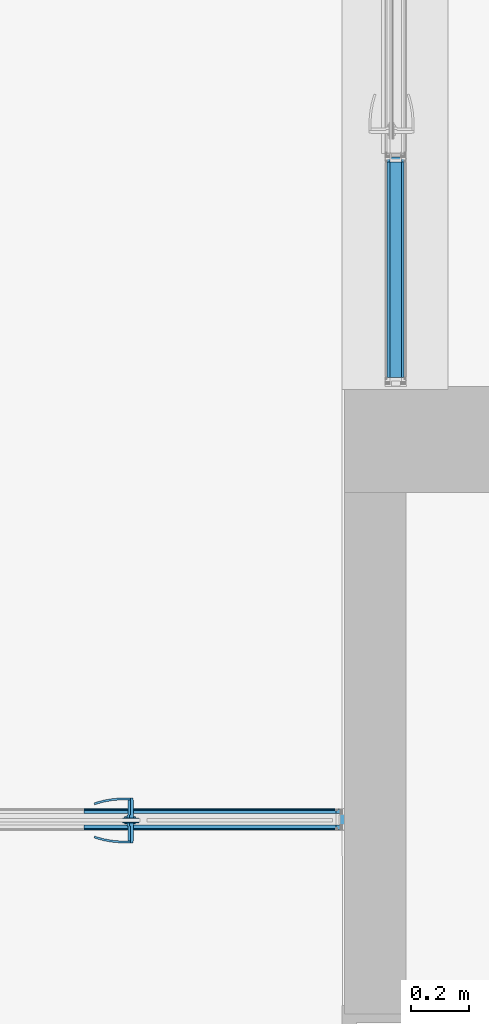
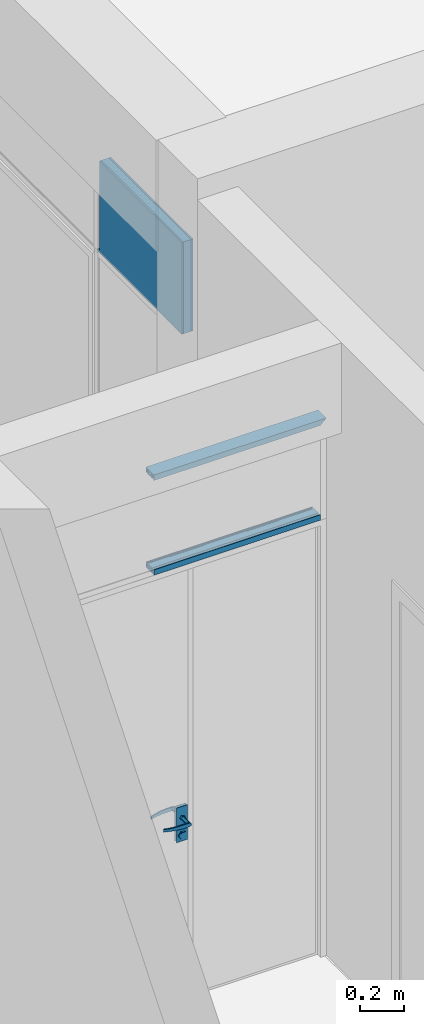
# One storey, part 70 of 89: 7 building element parts, 6 elements without a shape of their own.
"""IFC2X3 building model written with IfcOpenShell, lengths in millimetres."""

from ifc_helpers import new_model, entity, si_unit, converted_unit, derived_unit, money_unit, direction, frame, origin_with_axes, place, context, subcontext, project, spatial, open_shell, faceted_brep, surface_model, material, type_object, element, aggregate, save


model = new_model("IFC2X3")

# Units and contexts
model_context = context("Model", 3, precision=0.01, world=origin_with_axes(), true_north=direction((0.0, 1.0)))
body_context = subcontext(model_context, "Body", "Model", "MODEL_VIEW")
ifc_project = project(units=[si_unit("LENGTHUNIT", "METRE", prefix="MILLI"), si_unit("AREAUNIT", "SQUARE_METRE"), si_unit("VOLUMEUNIT", "CUBIC_METRE"), converted_unit("PLANEANGLEUNIT", "DEGREE", entity("IfcPlaneAngleMeasure", 0.0174532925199), si_unit("PLANEANGLEUNIT", "RADIAN"), dimensions=[0, 0, 0, 0, 0, 0, 0]), si_unit("SOLIDANGLEUNIT", "STERADIAN"), money_unit("EUR"), converted_unit("TIMEUNIT", "Year", entity("IfcTimeMeasure", 31556926.0), si_unit("TIMEUNIT", "SECOND"), dimensions=[0, 0, 1, 0, 0, 0, 0]), si_unit("MASSUNIT", "GRAM", prefix="KILO"), si_unit("THERMODYNAMICTEMPERATUREUNIT", "DEGREE_CELSIUS"), si_unit("LUMINOUSINTENSITYUNIT", "LUMEN"), si_unit("ENERGYUNIT", "JOULE", prefix="MEGA"), derived_unit("THERMALCONDUCTANCEUNIT", [(si_unit("POWERUNIT", "WATT"), 1), (si_unit("LENGTHUNIT", "METRE"), -1), (si_unit("THERMODYNAMICTEMPERATUREUNIT", "KELVIN"), -1)]), derived_unit("SPECIFICHEATCAPACITYUNIT", [(si_unit("ENERGYUNIT", "JOULE"), 1), (si_unit("MASSUNIT", "GRAM", prefix="KILO"), -1), (si_unit("THERMODYNAMICTEMPERATUREUNIT", "KELVIN"), -1)]), derived_unit("MASSDENSITYUNIT", [(si_unit("MASSUNIT", "GRAM", prefix="KILO"), 1), (si_unit("VOLUMEUNIT", "CUBIC_METRE"), -1)])], contexts=[model_context])

# Site, building, storey
site_placement = place(None, origin_with_axes())
site = spatial("IfcSite", under=ifc_project, at=site_placement, Name="Puškini 31, Narva", CompositionType="ELEMENT")
building_placement = place(site_placement, origin_with_axes())
building = spatial("IfcBuilding", under=site, at=building_placement, Name="Narva Riigigümnaasium", CompositionType="ELEMENT")
storey_placement = place(building_placement, frame((0.0, 0.0, -3300.0), z_axis=(0.0, 0.0, 1.0), x_axis=(1.0, 0.0, 0.0)))
storey = spatial("IfcBuildingStorey", under=building, at=storey_placement, Name="1.korrus -3.3", CompositionType="ELEMENT", Elevation=-3300.0)

# Curtain wall, plate, building element parts
curtain_wall_type = type_object("IfcCurtainWallType", Name="Curtain Wall Type", PredefinedType="NOTDEFINED")
curtain_wall_1_placement = place(storey_placement, frame((47675.0000001, 242632.20006, -3.78005973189e-05), z_axis=(0.0, 0.0, 1.0), x_axis=(1.0, 0.0, 0.0)))
curtain_wall_1 = element("IfcCurtainWall", 1, at=curtain_wall_1_placement, inside=storey, type_object=curtain_wall_type, Name="G-SKLF-10")
plate_type = type_object("IfcPlateType", Name="755 x 505 x 20", PredefinedType="CURTAIN_PANEL")
plate_placement = place(curtain_wall_1_placement, frame((0.0, 0.0, 2632.00002397), z_axis=(0.0, 0.0, 1.0), x_axis=(0.0, 1.0, 0.0)))
plate = element("IfcPlate", 2, at=plate_placement, type_object=plate_type, Name="G-SKLF-10-klaas", ObjectType="CURTAIN_PANEL")
aggregate(curtain_wall_1, [plate])
ifc_material_1 = material(Name="VKR-05_Klaas")
building_element_part_1_placement = place(plate_placement, origin_with_axes())
building_element_part_1 = element("IfcBuildingElementPart", 3, at=building_element_part_1_placement, material=ifc_material_1, Name="VKR-05_Klaas", context=body_context, shape_type="Brep", body=[
    faceted_brep([(-442.199978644, -29.0, 287.999945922), (297.799981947, -29.0, 287.999945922), (297.799981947, -20.0, 287.999945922), (-442.199978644, -20.0, 287.999945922), (-442.199978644, -29.0, -216.999991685), (314.800002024, -29.0, -216.999991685), (314.800002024, -29.0, -201.999956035), (297.799981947, -29.0, -201.999956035), (297.799981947, -20.0, -201.999956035), (314.800002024, -20.0, -201.999956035), (314.800002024, -20.0, -216.999991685), (-442.199978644, -20.0, -216.999991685)], [[[0, 1, 2, 3]], [[0, 4, 5, 6, 7, 1]], [[1, 7, 8, 2]], [[3, 2, 8, 9, 10, 11]], [[4, 0, 3, 11]], [[5, 4, 11, 10]], [[6, 5, 10, 9]], [[7, 6, 9, 8]]]),
    faceted_brep([(-442.199978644, 20.0, 287.999945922), (297.799981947, 20.0, 287.999945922), (297.799981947, 29.0, 287.999945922), (-442.199978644, 29.0, 287.999945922), (-442.199978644, 20.0, -216.999991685), (314.800002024, 20.0, -216.999991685), (314.800002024, 20.0, -201.999956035), (297.799981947, 20.0, -201.999956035), (297.799981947, 29.0, -201.999956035), (314.800002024, 29.0, -201.999956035), (314.800002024, 29.0, -216.999991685), (-442.199978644, 29.0, -216.999991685)], [[[0, 1, 2, 3]], [[0, 4, 5, 6, 7, 1]], [[1, 7, 8, 2]], [[3, 2, 8, 9, 10, 11]], [[4, 0, 3, 11]], [[5, 4, 11, 10]], [[6, 5, 10, 9]], [[7, 6, 9, 8]]]),
])
ifc_material_2 = material(Name="VKR-06_Õhkvahe")
building_element_part_2_placement = place(plate_placement, origin_with_axes())
building_element_part_2 = element("IfcBuildingElementPart", 4, at=building_element_part_2_placement, material=ifc_material_2, Name="VKR-06_Õhkvahe", context=body_context, shape_type="Brep", body=[
    faceted_brep([(-442.199978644, -20.0, 287.999945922), (297.799981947, -20.0, 287.999945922), (297.799981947, 20.0, 287.999945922), (-442.199978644, 20.0, 287.999945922), (-442.199978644, -20.0, -216.999991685), (314.800002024, -20.0, -216.999991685), (314.800002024, -20.0, -201.999956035), (297.799981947, -20.0, -201.999956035), (297.799981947, 20.0, -201.999956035), (314.800002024, 20.0, -201.999956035), (314.800002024, 20.0, -216.999991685), (-442.199978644, 20.0, -216.999991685)], [[[0, 1, 2, 3]], [[0, 4, 5, 6, 7, 1]], [[1, 7, 8, 2]], [[3, 2, 8, 9, 10, 11]], [[4, 0, 3, 11]], [[5, 4, 11, 10]], [[6, 5, 10, 9]], [[7, 6, 9, 8]]]),
])
aggregate(plate, [building_element_part_1, building_element_part_2])

# Curtain wall, door, building element parts, members
curtain_wall_2_placement = place(storey_placement, frame((46605.0000001, 240678.000001, 0.0), z_axis=(0.0, 0.0, 1.0), x_axis=(1.0, 0.0, 0.0)))
curtain_wall_2 = element("IfcCurtainWall", 5, at=curtain_wall_2_placement, inside=storey, type_object=curtain_wall_type, Name="G-SKLF-57")
door_style = type_object("IfcDoorStyle", Name="895 x 2385 x -5", ConstructionType="NOTDEFINED", OperationType="NOTDEFINED", ParameterTakesPrecedence=False, Sizeable=False)
door_placement = place(curtain_wall_2_placement, frame((0.0, 0.0, 1200.0), z_axis=(0.0, 0.0, 1.0), x_axis=(1.0, 0.0, 0.0)))
door = element("IfcDoor", 6, at=door_placement, type_object=door_style, Name="G-SKLF-58-U1", ObjectType="DOOR")
ifc_material_3 = material(Name="ET-07_Teras - Roostevaba")
building_element_part_3_placement = place(door_placement, origin_with_axes())
building_element_part_3 = element("IfcBuildingElementPart", 7, at=building_element_part_3_placement, material=ifc_material_3, Name="ET-07_Teras - Roostevaba", context=body_context, shape_type="SurfaceModel", body=[
    faceted_brep([(188.5, -14.5, -140.0), (131.5, -14.5, -140.0), (131.5, -17.5, -140.0), (188.5, -17.5, -140.0), (188.5, -14.5, -330.0), (131.5, -14.5, -330.0), (131.5, -17.5, -330.0), (188.5, -17.5, -330.0)], [[[0, 1, 2, 3]], [[0, 4, 5, 1]], [[1, 5, 6, 2]], [[3, 2, 6, 7]], [[4, 0, 3, 7]], [[5, 4, 7, 6]]]),
    surface_model("IfcShellBasedSurfaceModel", [(160.0, -78.5, -210.0), (168.660254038, -78.5, -205.0), (168.660254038, -85.5, -205.0), (160.0, -85.5, -210.0), (135.0, -78.5, -210.0), (135.0, -78.5, -190.0), (160.0, -78.5, -190.0), (168.660254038, -78.5, -195.0), (168.660254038, -85.5, -195.0), (160.0, -85.5, -190.0), (135.0, -85.5, -190.0), (135.0, -85.5, -210.0)], [open_shell([[[0, 1, 2, 3]], [[0, 4, 5, 6, 7, 1]], [[1, 7, 8, 2]], [[3, 2, 8, 9, 10, 11]], [[4, 0, 3, 11]], [[6, 5, 10, 9]], [[7, 6, 9, 8]]])]),
    surface_model("IfcShellBasedSurfaceModel", [(135.0, -78.5, -190.0), (121.901717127, -78.5, -190.392699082), (121.596090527, -85.5, -190.392699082), (135.0, -78.5, -210.0), (121.901717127, -78.5, -209.607300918), (94.8902834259, -83.1635446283, -191.178097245), (135.0, -85.5, -190.0), (135.0, -85.5, -210.0), (95.804837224, -76.216818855, -208.821902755), (95.804837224, -76.216818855, -191.178097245), (94.8902834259, -83.1635446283, -208.821902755), (121.596090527, -85.5, -209.607300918), (70.0062561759, -71.6678329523, -208.036504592), (70.0062561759, -71.6678329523, -191.963495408), (68.4897354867, -78.5084157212, -191.963495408), (68.4897354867, -78.5084157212, -208.036504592), (44.7023167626, -64.8876628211, -207.251106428), (44.7023167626, -64.8876628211, -192.748893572), (42.5953708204, -71.5700416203, -192.748893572), (42.5953708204, -71.5700416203, -207.251106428), (36.8294420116, -62.0221707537, -207.0), (36.8294420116, -62.0221707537, -193.0), (34.5387956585, -68.6376880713, -193.0), (34.5387956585, -68.6376880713, -207.0)], [open_shell([[[0, 1, 2]], [[0, 3, 4, 1]], [[1, 5, 2]], [[0, 2, 6]], [[4, 3, 7]], [[1, 4, 8, 9]], [[1, 9, 5]], [[2, 5, 10, 11]], [[6, 2, 11, 7]], [[4, 7, 11]], [[8, 4, 11]], [[9, 8, 12, 13]], [[9, 14, 5]], [[5, 14, 15, 10]], [[8, 11, 10]], [[12, 8, 10]], [[13, 12, 16, 17]], [[9, 13, 14]], [[14, 18, 19, 15]], [[12, 10, 15]], [[16, 12, 15]], [[17, 16, 20, 21]], [[13, 17, 18]], [[13, 18, 14]], [[18, 22, 23, 19]], [[16, 15, 19]], [[20, 16, 19]], [[21, 20, 23, 22]], [[17, 21, 22]], [[17, 22, 18]], [[20, 19, 23]]])]),
    faceted_brep([(156.291796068, -27.5, -211.412678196), (148.0, -27.5, -200.0), (147.0, -17.5, -200.0), (155.982779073, -17.5, -212.363734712), (169.708203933, -27.5, -207.053423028), (169.708203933, -27.5, -192.946576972), (156.291796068, -27.5, -188.587321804), (155.982779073, -17.5, -187.636265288), (170.517220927, -17.5, -192.35879172), (170.517220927, -17.5, -207.64120828)], [[[0, 1, 2, 3]], [[1, 0, 4, 5, 6]], [[1, 6, 7, 2]], [[2, 7, 8, 9, 3]], [[4, 0, 3, 9]], [[5, 4, 9, 8]], [[6, 5, 8, 7]]]),
    faceted_brep([(153.819660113, -21.5, -314.021130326), (140.0, -21.5, -295.0), (138.0, -17.5, -295.0), (153.201626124, -17.5, -315.923243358), (176.180339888, -21.5, -306.755705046), (176.180339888, -21.5, -283.244294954), (153.819660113, -21.5, -275.978869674), (153.201626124, -17.5, -274.076756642), (177.798373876, -17.5, -282.06872445), (177.798373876, -17.5, -307.93127555)], [[[0, 1, 2, 3]], [[1, 0, 4, 5, 6]], [[1, 6, 7, 2]], [[2, 7, 8, 9, 3]], [[4, 0, 3, 9]], [[5, 4, 9, 8]], [[6, 5, 8, 7]]]),
    faceted_brep([(157.836881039, -23.5, -292.657395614), (153.0, -23.5, -286.0), (152.0, -21.5, -286.0), (157.527864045, -21.5, -293.60845213), (165.663118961, -23.5, -290.114496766), (165.663118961, -23.5, -281.885503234), (157.836881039, -23.5, -279.342604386), (157.527864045, -21.5, -278.39154787), (166.472135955, -21.5, -281.297717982), (166.472135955, -21.5, -290.702282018)], [[[0, 1, 2, 3]], [[1, 0, 4, 5, 6]], [[1, 6, 7, 2]], [[2, 7, 8, 9, 3]], [[4, 0, 3, 9]], [[5, 4, 9, 8]], [[6, 5, 8, 7]]]),
    faceted_brep([(160.0, -27.5, -190.0), (150.489434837, -27.5, -196.909830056), (150.489434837, -78.5, -196.909830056), (160.0, -78.5, -190.0), (169.510565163, -27.5, -196.909830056), (165.877852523, -27.5, -208.090169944), (154.122147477, -27.5, -208.090169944), (154.122147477, -78.5, -208.090169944), (165.877852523, -78.5, -208.090169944), (169.510565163, -78.5, -196.909830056)], [[[0, 1, 2, 3]], [[0, 4, 5, 6, 1]], [[1, 6, 7, 2]], [[3, 2, 7, 8, 9]], [[4, 0, 3, 9]], [[5, 4, 9, 8]], [[6, 5, 8, 7]]]),
    faceted_brep([(188.5, -2.5, -140.0), (188.5, 0.499999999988, -140.0), (131.5, 0.499999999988, -140.0), (131.5, -2.5, -140.0), (188.5, -2.5, -330.0), (188.5, 0.499999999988, -330.0), (131.5, 0.499999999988, -330.0), (131.5, -2.5, -330.0)], [[[0, 1, 2, 3]], [[4, 5, 1, 0]], [[1, 5, 6, 2]], [[3, 2, 6, 7]], [[0, 3, 7, 4]], [[7, 6, 5, 4]]]),
    surface_model("IfcShellBasedSurfaceModel", [(160.0, 61.5, -210.0), (160.0, 68.5, -210.0), (168.660254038, 68.5, -205.0), (168.660254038, 61.5, -205.0), (135.0, 61.5, -210.0), (135.0, 68.5, -210.0), (135.0, 68.5, -190.0), (160.0, 68.5, -190.0), (168.660254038, 68.5, -195.0), (168.660254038, 61.5, -195.0), (160.0, 61.5, -190.0), (135.0, 61.5, -190.0)], [open_shell([[[0, 1, 2, 3]], [[4, 5, 1, 0]], [[1, 5, 6, 7, 8, 2]], [[3, 2, 8, 9]], [[0, 3, 9, 10, 11, 4]], [[10, 7, 6, 11]], [[9, 8, 7, 10]]])]),
    surface_model("IfcShellBasedSurfaceModel", [(135.0, 61.5, -190.0), (121.596090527, 68.5, -190.392699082), (121.901717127, 61.5, -190.392699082), (135.0, 68.5, -190.0), (94.8902834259, 66.1635446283, -191.178097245), (121.901717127, 61.5, -209.607300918), (135.0, 61.5, -210.0), (135.0, 68.5, -210.0), (121.596090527, 68.5, -209.607300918), (94.8902834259, 66.1635446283, -208.821902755), (95.804837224, 59.216818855, -191.178097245), (95.804837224, 59.216818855, -208.821902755), (68.4897354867, 61.5084157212, -208.036504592), (68.4897354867, 61.5084157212, -191.963495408), (70.0062561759, 54.6678329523, -191.963495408), (70.0062561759, 54.6678329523, -208.036504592), (42.5953708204, 54.5700416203, -207.251106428), (42.5953708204, 54.5700416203, -192.748893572), (44.7023167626, 47.8876628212, -192.748893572), (44.7023167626, 47.8876628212, -207.251106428), (34.5387956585, 51.6376880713, -207.0), (34.5387956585, 51.6376880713, -193.0), (36.8294420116, 45.0221707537, -193.0), (36.8294420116, 45.0221707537, -207.0)], [open_shell([[[0, 1, 2]], [[0, 3, 1]], [[2, 1, 4]], [[0, 2, 5, 6]], [[3, 7, 8, 1]], [[1, 8, 9, 4]], [[2, 4, 10]], [[2, 10, 11, 5]], [[5, 7, 6]], [[5, 8, 7]], [[11, 9, 8]], [[4, 9, 12, 13]], [[10, 4, 13]], [[10, 14, 15, 11]], [[11, 8, 5]], [[15, 9, 11]], [[15, 12, 9]], [[13, 12, 16, 17]], [[10, 13, 14]], [[14, 18, 19, 15]], [[19, 12, 15]], [[19, 16, 12]], [[17, 16, 20, 21]], [[14, 13, 17]], [[14, 17, 18]], [[18, 22, 23, 19]], [[23, 16, 19]], [[23, 20, 16]], [[22, 21, 20, 23]], [[18, 17, 21]], [[18, 21, 22]]])]),
    faceted_brep([(156.291796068, 10.5, -211.412678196), (155.982779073, 0.499999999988, -212.363734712), (147.0, 0.499999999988, -200.0), (148.0, 10.5, -200.0), (169.708203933, 10.5, -207.053423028), (170.517220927, 0.499999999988, -207.64120828), (170.517220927, 0.499999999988, -192.35879172), (155.982779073, 0.499999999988, -187.636265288), (156.291796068, 10.5, -188.587321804), (169.708203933, 10.5, -192.946576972)], [[[0, 1, 2, 3]], [[4, 5, 1, 0]], [[2, 1, 5, 6, 7]], [[3, 2, 7, 8]], [[3, 8, 9, 4, 0]], [[9, 6, 5, 4]], [[8, 7, 6, 9]]]),
    faceted_brep([(153.819660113, 4.50000000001, -314.021130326), (153.201626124, 0.499999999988, -315.923243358), (138.0, 0.499999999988, -295.0), (140.0, 4.50000000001, -295.0), (176.180339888, 4.50000000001, -306.755705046), (177.798373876, 0.499999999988, -307.93127555), (177.798373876, 0.499999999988, -282.06872445), (153.201626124, 0.499999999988, -274.076756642), (153.819660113, 4.50000000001, -275.978869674), (176.180339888, 4.50000000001, -283.244294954)], [[[0, 1, 2, 3]], [[4, 5, 1, 0]], [[2, 1, 5, 6, 7]], [[3, 2, 7, 8]], [[3, 8, 9, 4, 0]], [[9, 6, 5, 4]], [[8, 7, 6, 9]]]),
    faceted_brep([(157.836881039, 6.49999999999, -292.657395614), (157.527864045, 4.50000000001, -293.60845213), (152.0, 4.50000000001, -286.0), (153.0, 6.49999999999, -286.0), (165.663118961, 6.49999999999, -290.114496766), (166.472135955, 4.50000000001, -290.702282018), (166.472135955, 4.50000000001, -281.297717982), (157.527864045, 4.50000000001, -278.39154787), (157.836881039, 6.49999999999, -279.342604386), (165.663118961, 6.49999999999, -281.885503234)], [[[0, 1, 2, 3]], [[4, 5, 1, 0]], [[2, 1, 5, 6, 7]], [[3, 2, 7, 8]], [[3, 8, 9, 4, 0]], [[9, 6, 5, 4]], [[8, 7, 6, 9]]]),
    faceted_brep([(160.0, 10.5, -190.0), (160.0, 61.5, -190.0), (150.489434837, 61.5, -196.909830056), (150.489434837, 10.5, -196.909830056), (169.510565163, 10.5, -196.909830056), (169.510565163, 61.5, -196.909830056), (165.877852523, 61.5, -208.090169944), (154.122147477, 61.5, -208.090169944), (154.122147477, 10.5, -208.090169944), (165.877852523, 10.5, -208.090169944)], [[[0, 1, 2, 3]], [[4, 5, 1, 0]], [[1, 5, 6, 7, 2]], [[3, 2, 7, 8]], [[0, 3, 8, 9, 4]], [[9, 6, 5, 4]], [[8, 7, 6, 9]]]),
])
aggregate(door, [building_element_part_3])
member_type_1 = type_object("IfcMemberType", Name="Siseklaasfassaad-Servaprofiil-Doubleline30 30 x 42", PredefinedType="MULLION")
member_1_placement = place(curtain_wall_2_placement, frame((895.0, 0.0, 2400.0), z_axis=(-1.0, 0.0, 0.0), x_axis=(0.0, 0.0, 1.0)))
member_1 = element("IfcMember", 8, at=member_1_placement, type_object=member_type_1, Name="Frame-Siseklaasf-125", ObjectType="MULLION")
ifc_material_4 = material(Name="Klaasvill")
building_element_part_4_placement = place(member_1_placement, origin_with_axes())
building_element_part_4 = element("IfcBuildingElementPart", 9, at=building_element_part_4_placement, material=ifc_material_4, Name="Klaasvill", context=body_context, shape_type="Brep", body=[
    faceted_brep([(13.8499999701, 15.000000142, 30.0000193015), (13.8499999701, 15.000000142, 895.0), (7.49999990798, 15.000000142, 895.0), (7.49999990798, 15.000000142, 30.0000193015), (13.8499999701, 29.0161444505, 30.0000193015), (13.8499999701, 29.0161444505, 895.0), (7.49999990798, 29.0161444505, 895.0), (7.49999990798, 29.0161444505, 30.0000193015)], [[[0, 1, 2, 3]], [[4, 5, 1, 0]], [[2, 1, 5, 6]], [[3, 2, 6, 7]], [[3, 7, 4, 0]], [[7, 6, 5, 4]]]),
    faceted_brep([(25.004489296, 27.0307503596, 30.0000193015), (25.004489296, 27.0307503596, 895.0), (24.987414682, 29.0161444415, 895.0), (24.987414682, 29.0161444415, 30.0000193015), (25.742237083, 26.2930025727, 30.0000193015), (25.742237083, 26.2930025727, 895.0), (26.7500193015, 26.0229681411, 895.0), (27.75780152, 26.2930025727, 895.0), (28.4955493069, 27.0307503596, 895.0), (28.7655837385, 28.0385325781, 895.0), (28.5126239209, 29.0161444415, 895.0), (28.5126239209, 29.0161444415, 30.0000193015), (28.7655837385, 28.0385325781, 30.0000193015), (28.4955493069, 27.0307503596, 30.0000193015), (27.75780152, 26.2930025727, 30.0000193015), (26.7500193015, 26.0229681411, 30.0000193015)], [[[0, 1, 2, 3]], [[4, 5, 1, 0]], [[2, 1, 5, 6, 7, 8, 9, 10]], [[3, 2, 10, 11]], [[3, 11, 12, 13, 14, 15, 4, 0]], [[15, 6, 5, 4]], [[14, 7, 6, 15]], [[13, 8, 7, 14]], [[12, 9, 8, 13]], [[11, 10, 9, 12]]]),
    faceted_brep([(7.49999990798, -39.0161445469, 30.0000193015), (7.49999990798, -39.0161445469, 895.0), (7.49999990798, -24.9999997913, 895.0), (7.49999990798, -24.9999997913, 30.0000193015), (13.8499999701, -39.0161445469, 30.0000193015), (13.8499999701, -39.0161445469, 895.0), (13.8499999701, -24.9999997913, 895.0), (13.8499999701, -24.9999997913, 30.0000193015)], [[[0, 1, 2, 3]], [[4, 5, 1, 0]], [[2, 1, 5, 6]], [[3, 2, 6, 7]], [[3, 7, 4, 0]], [[7, 6, 5, 4]]]),
    faceted_brep([(24.987414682, -39.0161444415, 30.0000193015), (24.987414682, -39.0161444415, 895.0), (25.004489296, -37.0307503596, 895.0), (25.004489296, -37.0307503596, 30.0000193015), (28.5126239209, -39.0161444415, 30.0000193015), (28.5126239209, -39.0161444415, 895.0), (28.7655837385, -38.0385325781, 895.0), (28.4955493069, -37.0307503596, 895.0), (27.75780152, -36.2930025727, 895.0), (26.7500193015, -36.0229681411, 895.0), (25.742237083, -36.2930025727, 895.0), (25.742237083, -36.2930025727, 30.0000193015), (26.7500193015, -36.0229681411, 30.0000193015), (27.75780152, -36.2930025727, 30.0000193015), (28.4955493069, -37.0307503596, 30.0000193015), (28.7655837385, -38.0385325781, 30.0000193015)], [[[0, 1, 2, 3]], [[4, 5, 1, 0]], [[2, 1, 5, 6, 7, 8, 9, 10]], [[3, 2, 10, 11]], [[3, 11, 12, 13, 14, 15, 4, 0]], [[15, 6, 5, 4]], [[14, 7, 6, 15]], [[13, 8, 7, 14]], [[12, 9, 8, 13]], [[11, 10, 9, 12]]]),
])
ifc_material_5 = material(Name="Teras RAL7012")
building_element_part_5_placement = place(member_1_placement, origin_with_axes())
building_element_part_5 = element("IfcBuildingElementPart", 10, at=building_element_part_5_placement, material=ifc_material_5, Name="Teras RAL7012", context=body_context, shape_type="Brep", body=[
    faceted_brep([(29.5999996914, -22.0000000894, 30.0000193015), (29.5999996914, -22.0000000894, 895.0), (0.0, -22.0000000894, 895.0), (0.0, -22.0000000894, 30.0000193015), (29.5999996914, 12.0000000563, 30.0000193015), (29.5999996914, 12.0000000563, 895.0), (0.0, 12.0000000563, 895.0), (1.9999999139, 10.0000001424, 895.0), (18.7999996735, 10.0000001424, 895.0), (18.7999996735, -20.0000001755, 895.0), (1.9999999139, -20.0000001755, 895.0), (0.0, 12.0000000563, 30.0000193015), (1.9999999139, 10.0000001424, 30.0000193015), (1.9999999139, -20.0000001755, 30.0000193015), (18.7999996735, -20.0000001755, 30.0000193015), (18.7999996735, 10.0000001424, 30.0000193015)], [[[0, 1, 2, 3]], [[4, 5, 1, 0]], [[2, 1, 5, 6], [7, 8, 9, 10]], [[3, 2, 6, 11]], [[3, 11, 4, 0], [12, 13, 14, 15]], [[11, 6, 5, 4]], [[15, 8, 7, 12]], [[14, 9, 8, 15]], [[13, 10, 9, 14]], [[12, 7, 10, 13]]]),
    faceted_brep([(29.5999996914, 12.0000000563, 30.0000193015), (29.5999996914, 12.0000000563, 895.0), (0.0, 12.0, 895.0), (0.0, 12.0, 30.0000193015), (30.0000193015, 12.0, 30.0000193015), (30.0000193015, 12.0, 895.0), (30.0000193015, 15.0, 895.0), (13.8499999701, 15.000000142, 895.0), (7.49999999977, 15.0, 895.0), (7.49999999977, 29.0161444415, 895.0), (13.8499999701, 29.0161444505, 895.0), (24.987414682, 29.0161444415, 895.0), (28.5126239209, 29.0161444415, 895.0), (30.0000193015, 29.0161444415, 895.0), (30.0000193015, 32.0, 895.0), (0.0, 32.0, 895.0), (0.0, 32.0, 30.0000193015), (30.0000193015, 32.0, 30.0000193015), (30.0000193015, 29.0161444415, 30.0000193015), (28.5126239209, 29.0161444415, 30.0000193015), (24.987414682, 29.0161444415, 30.0000193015), (13.8499999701, 29.0161444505, 30.0000193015), (7.49999999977, 29.0161444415, 30.0000193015), (7.49999999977, 15.0, 30.0000193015), (13.8499999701, 15.000000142, 30.0000193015), (30.0000193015, 15.0, 30.0000193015)], [[[0, 1, 2, 3]], [[4, 5, 1, 0]], [[2, 1, 5, 6, 7, 8, 9, 10, 11, 12, 13, 14, 15]], [[3, 2, 15, 16]], [[3, 16, 17, 18, 19, 20, 21, 22, 23, 24, 25, 4, 0]], [[25, 6, 5, 4]], [[24, 7, 6, 25]], [[23, 8, 7, 24]], [[22, 9, 8, 23]], [[21, 10, 9, 22]], [[20, 11, 10, 21]], [[19, 12, 11, 20]], [[18, 13, 12, 19]], [[17, 14, 13, 18]], [[16, 15, 14, 17]]]),
    faceted_brep([(0.0, -42.0, 30.0000193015), (0.0, -42.0, 895.0), (0.0, -22.0, 895.0), (0.0, -22.0, 30.0000193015), (30.0000193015, -42.0, 30.0000193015), (30.0000193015, -42.0, 895.0), (30.0000193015, -39.0161444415, 895.0), (28.5126239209, -39.0161444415, 895.0), (24.987414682, -39.0161444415, 895.0), (13.8499999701, -39.0161445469, 895.0), (7.49999999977, -39.0161444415, 895.0), (7.49999999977, -25.0, 895.0), (13.8499999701, -24.9999997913, 895.0), (30.0000193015, -25.0, 895.0), (30.0000193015, -22.0, 895.0), (29.5999996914, -22.0000000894, 895.0), (29.5999996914, -22.0000000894, 30.0000193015), (30.0000193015, -22.0, 30.0000193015), (30.0000193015, -25.0, 30.0000193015), (13.8499999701, -24.9999997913, 30.0000193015), (7.49999999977, -25.0, 30.0000193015), (7.49999999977, -39.0161444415, 30.0000193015), (13.8499999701, -39.0161445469, 30.0000193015), (24.987414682, -39.0161444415, 30.0000193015), (28.5126239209, -39.0161444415, 30.0000193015), (30.0000193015, -39.0161444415, 30.0000193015)], [[[0, 1, 2, 3]], [[4, 5, 1, 0]], [[2, 1, 5, 6, 7, 8, 9, 10, 11, 12, 13, 14, 15]], [[3, 2, 15, 16]], [[3, 16, 17, 18, 19, 20, 21, 22, 23, 24, 25, 4, 0]], [[25, 6, 5, 4]], [[24, 7, 6, 25]], [[23, 8, 7, 24]], [[22, 9, 8, 23]], [[21, 10, 9, 22]], [[20, 11, 10, 21]], [[19, 12, 11, 20]], [[18, 13, 12, 19]], [[17, 14, 13, 18]], [[16, 15, 14, 17]]]),
])
aggregate(member_1, [building_element_part_4, building_element_part_5])
member_type_2 = type_object("IfcMemberType", Name="Boundary Frame 30 x 42", PredefinedType="MULLION")
member_2_placement = place(curtain_wall_2_placement, frame((895.0, 0.0, 2950.0), z_axis=(-1.0, 0.0, 0.0), x_axis=(0.0, 0.0, 1.0)))
member_2 = element("IfcMember", 11, at=member_2_placement, type_object=member_type_2, Name="SKLF-88-raam", ObjectType="MULLION")
aggregate(curtain_wall_2, [door, member_1, member_2])
building_element_part_6_placement = place(member_2_placement, origin_with_axes())
building_element_part_6 = element("IfcBuildingElementPart", 12, at=building_element_part_6_placement, material=ifc_material_4, Name="Klaasvill", context=body_context, shape_type="Brep", body=[
    faceted_brep([(-13.8499999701, 15.000000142, 13.8499999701), (-7.49999990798, 15.000000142, 7.49999990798), (-7.49999990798, 15.000000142, 895.0), (-13.8499999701, 15.000000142, 895.0), (-13.8499999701, 29.0161444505, 13.8499999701), (-7.49999990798, 29.0161444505, 7.49999990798), (-7.49999990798, 29.0161444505, 895.0), (-13.8499999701, 29.0161444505, 895.0)], [[[0, 1, 2, 3]], [[1, 0, 4, 5]], [[1, 5, 6, 2]], [[2, 6, 7, 3]], [[4, 0, 3, 7]], [[5, 4, 7, 6]]]),
    faceted_brep([(-25.004489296, 27.0307503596, 25.004489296), (-24.987414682, 29.0161444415, 24.987414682), (-24.987414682, 29.0161444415, 895.0), (-25.004489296, 27.0307503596, 895.0), (-25.742237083, 26.2930025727, 25.742237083), (-26.7500193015, 26.0229681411, 26.7500193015), (-27.75780152, 26.2930025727, 27.75780152), (-28.4955493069, 27.0307503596, 28.4955493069), (-28.7655837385, 28.0385325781, 28.7655837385), (-28.5126239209, 29.0161444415, 28.5126239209), (-28.5126239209, 29.0161444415, 895.0), (-28.7655837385, 28.0385325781, 895.0), (-28.4955493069, 27.0307503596, 895.0), (-27.75780152, 26.2930025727, 895.0), (-26.7500193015, 26.0229681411, 895.0), (-25.742237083, 26.2930025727, 895.0)], [[[0, 1, 2, 3]], [[1, 0, 4, 5, 6, 7, 8, 9]], [[1, 9, 10, 2]], [[2, 10, 11, 12, 13, 14, 15, 3]], [[4, 0, 3, 15]], [[5, 4, 15, 14]], [[6, 5, 14, 13]], [[7, 6, 13, 12]], [[8, 7, 12, 11]], [[9, 8, 11, 10]]]),
    faceted_brep([(-7.49999990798, -39.0161445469, 7.49999990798), (-7.49999990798, -24.9999997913, 7.49999990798), (-7.49999990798, -24.9999997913, 895.0), (-7.49999990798, -39.0161445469, 895.0), (-13.8499999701, -39.0161445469, 13.8499999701), (-13.8499999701, -24.9999997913, 13.8499999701), (-13.8499999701, -24.9999997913, 895.0), (-13.8499999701, -39.0161445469, 895.0)], [[[0, 1, 2, 3]], [[1, 0, 4, 5]], [[1, 5, 6, 2]], [[2, 6, 7, 3]], [[4, 0, 3, 7]], [[5, 4, 7, 6]]]),
    faceted_brep([(-24.987414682, -39.0161444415, 24.987414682), (-25.004489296, -37.0307503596, 25.004489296), (-25.004489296, -37.0307503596, 895.0), (-24.987414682, -39.0161444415, 895.0), (-28.5126239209, -39.0161444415, 28.5126239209), (-28.7655837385, -38.0385325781, 28.7655837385), (-28.4955493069, -37.0307503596, 28.4955493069), (-27.75780152, -36.2930025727, 27.75780152), (-26.7500193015, -36.0229681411, 26.7500193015), (-25.742237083, -36.2930025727, 25.742237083), (-25.742237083, -36.2930025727, 895.0), (-26.7500193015, -36.0229681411, 895.0), (-27.75780152, -36.2930025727, 895.0), (-28.4955493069, -37.0307503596, 895.0), (-28.7655837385, -38.0385325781, 895.0), (-28.5126239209, -39.0161444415, 895.0)], [[[0, 1, 2, 3]], [[1, 0, 4, 5, 6, 7, 8, 9]], [[1, 9, 10, 2]], [[2, 10, 11, 12, 13, 14, 15, 3]], [[4, 0, 3, 15]], [[5, 4, 15, 14]], [[6, 5, 14, 13]], [[7, 6, 13, 12]], [[8, 7, 12, 11]], [[9, 8, 11, 10]]]),
])
building_element_part_7_placement = place(member_2_placement, origin_with_axes())
building_element_part_7 = element("IfcBuildingElementPart", 13, at=building_element_part_7_placement, material=ifc_material_5, Name="Teras RAL7012", context=body_context, shape_type="Brep", body=[
    faceted_brep([(-29.5999996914, -22.0000000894, 29.5999996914), (0.0, -22.0000000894, 0.0), (0.0, -22.0000000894, 895.0), (-29.5999996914, -22.0000000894, 895.0), (-29.5999996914, 12.0000000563, 29.5999996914), (0.0, 12.0000000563, 0.0), (-1.9999999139, 10.0000001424, 1.9999999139), (-18.7999996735, 10.0000001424, 18.7999996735), (-18.7999996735, -20.0000001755, 18.7999996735), (-1.9999999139, -20.0000001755, 1.9999999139), (0.0, 12.0000000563, 895.0), (-29.5999996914, 12.0000000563, 895.0), (-1.9999999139, 10.0000001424, 895.0), (-1.9999999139, -20.0000001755, 895.0), (-18.7999996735, -20.0000001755, 895.0), (-18.7999996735, 10.0000001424, 895.0)], [[[0, 1, 2, 3]], [[1, 0, 4, 5], [6, 7, 8, 9]], [[1, 5, 10, 2]], [[2, 10, 11, 3], [12, 13, 14, 15]], [[4, 0, 3, 11]], [[5, 4, 11, 10]], [[7, 6, 12, 15]], [[8, 7, 15, 14]], [[9, 8, 14, 13]], [[6, 9, 13, 12]]]),
    faceted_brep([(-29.5999996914, 12.0000000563, 29.5999996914), (0.0, 12.0, 0.0), (0.0, 12.0, 895.0), (-29.5999996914, 12.0000000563, 895.0), (-30.0000193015, 12.0, 30.0000193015), (-30.0000193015, 15.0, 30.0000193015), (-13.8499999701, 15.000000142, 13.8499999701), (-7.49999999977, 15.0, 7.49999999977), (-7.49999999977, 29.0161444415, 7.49999999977), (-13.8499999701, 29.0161444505, 13.8499999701), (-24.987414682, 29.0161444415, 24.987414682), (-28.5126239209, 29.0161444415, 28.5126239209), (-30.0000193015, 29.0161444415, 30.0000193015), (-30.0000193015, 32.0, 30.0000193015), (0.0, 32.0, 0.0), (0.0, 32.0, 895.0), (-30.0000193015, 32.0, 895.0), (-30.0000193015, 29.0161444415, 895.0), (-28.5126239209, 29.0161444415, 895.0), (-24.987414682, 29.0161444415, 895.0), (-13.8499999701, 29.0161444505, 895.0), (-7.49999999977, 29.0161444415, 895.0), (-7.49999999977, 15.0, 895.0), (-13.8499999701, 15.000000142, 895.0), (-30.0000193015, 15.0, 895.0), (-30.0000193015, 12.0, 895.0)], [[[0, 1, 2, 3]], [[1, 0, 4, 5, 6, 7, 8, 9, 10, 11, 12, 13, 14]], [[1, 14, 15, 2]], [[2, 15, 16, 17, 18, 19, 20, 21, 22, 23, 24, 25, 3]], [[4, 0, 3, 25]], [[5, 4, 25, 24]], [[6, 5, 24, 23]], [[7, 6, 23, 22]], [[8, 7, 22, 21]], [[9, 8, 21, 20]], [[10, 9, 20, 19]], [[11, 10, 19, 18]], [[12, 11, 18, 17]], [[13, 12, 17, 16]], [[14, 13, 16, 15]]]),
    faceted_brep([(0.0, -42.0, 0.0), (0.0, -22.0, 0.0), (0.0, -22.0, 895.0), (0.0, -42.0, 895.0), (-30.0000193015, -42.0, 30.0000193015), (-30.0000193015, -39.0161444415, 30.0000193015), (-28.5126239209, -39.0161444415, 28.5126239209), (-24.987414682, -39.0161444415, 24.987414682), (-13.8499999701, -39.0161445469, 13.8499999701), (-7.49999999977, -39.0161444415, 7.49999999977), (-7.49999999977, -25.0, 7.49999999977), (-13.8499999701, -24.9999997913, 13.8499999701), (-30.0000193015, -25.0, 30.0000193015), (-30.0000193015, -22.0, 30.0000193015), (-29.5999996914, -22.0000000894, 29.5999996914), (-29.5999996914, -22.0000000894, 895.0), (-30.0000193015, -22.0, 895.0), (-30.0000193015, -25.0, 895.0), (-13.8499999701, -24.9999997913, 895.0), (-7.49999999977, -25.0, 895.0), (-7.49999999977, -39.0161444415, 895.0), (-13.8499999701, -39.0161445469, 895.0), (-24.987414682, -39.0161444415, 895.0), (-28.5126239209, -39.0161444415, 895.0), (-30.0000193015, -39.0161444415, 895.0), (-30.0000193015, -42.0, 895.0)], [[[0, 1, 2, 3]], [[1, 0, 4, 5, 6, 7, 8, 9, 10, 11, 12, 13, 14]], [[1, 14, 15, 2]], [[2, 15, 16, 17, 18, 19, 20, 21, 22, 23, 24, 25, 3]], [[4, 0, 3, 25]], [[5, 4, 25, 24]], [[6, 5, 24, 23]], [[7, 6, 23, 22]], [[8, 7, 22, 21]], [[9, 8, 21, 20]], [[10, 9, 20, 19]], [[11, 10, 19, 18]], [[12, 11, 18, 17]], [[13, 12, 17, 16]], [[14, 13, 16, 15]]]),
])
aggregate(member_2, [building_element_part_6, building_element_part_7])

save(model, "model.ifc")
